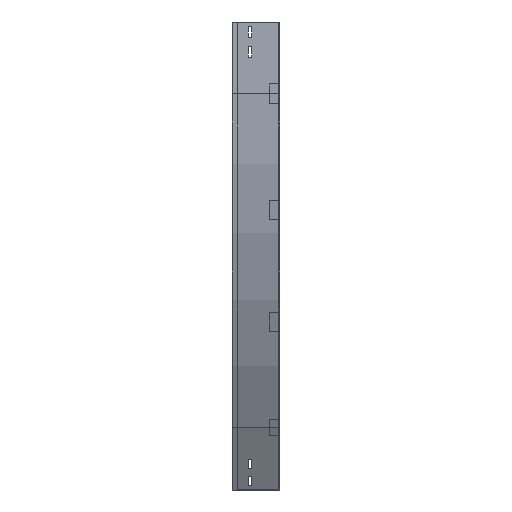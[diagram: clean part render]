
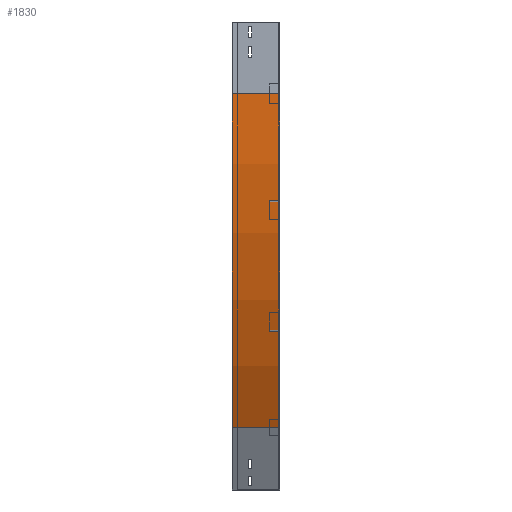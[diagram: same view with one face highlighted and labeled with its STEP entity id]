
A CAD part, left-side view. The second image highlights one B-rep face of the part: STEP entity #1830.
In plain terms, the highlighted cylindrical face has radius 1400 mm (diameter 2800 mm), a partial arc.
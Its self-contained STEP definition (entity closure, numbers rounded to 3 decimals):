
#34 = ORIENTED_EDGE ( 'NONE', *, *, #960, .T. ) ;
#155 = CARTESIAN_POINT ( 'NONE',  ( 1400., 100., -150. ) ) ;
#475 = LINE ( 'NONE', #803, #614 ) ;
#494 = DIRECTION ( 'NONE',  ( 0., -1., 0. ) ) ;
#614 = VECTOR ( 'NONE', #1393, 1000. ) ;
#655 = CYLINDRICAL_SURFACE ( 'NONE', #1392, 1400. ) ;
#803 = CARTESIAN_POINT ( 'NONE',  ( 0., 0., -150. ) ) ;
#844 = LINE ( 'NONE', #1091, #1557 ) ;
#913 = EDGE_CURVE ( 'NONE', #2637, #1344, #2130, .T. ) ;
#960 = EDGE_CURVE ( 'NONE', #3785, #1344, #844, .T. ) ;
#1091 = CARTESIAN_POINT ( 'NONE',  ( 187.564, 0., -850. ) ) ;
#1193 = FACE_OUTER_BOUND ( 'NONE', #1793, .T. ) ;
#1211 = CARTESIAN_POINT ( 'NONE',  ( 1400., 0., -150. ) ) ;
#1344 = VERTEX_POINT ( 'NONE', #2971 ) ;
#1392 = AXIS2_PLACEMENT_3D ( 'NONE', #1211, #1546, #2994 ) ;
#1393 = DIRECTION ( 'NONE',  ( 0., -1., 0. ) ) ;
#1546 = DIRECTION ( 'NONE',  ( 0., -1., 0. ) ) ;
#1557 = VECTOR ( 'NONE', #2096, 1000. ) ;
#1706 = VERTEX_POINT ( 'NONE', #2267 ) ;
#1741 = CARTESIAN_POINT ( 'NONE',  ( 0., 0., -150. ) ) ;
#1793 = EDGE_LOOP ( 'NONE', ( #3158, #2345, #3362, #34 ) ) ;
#1830 = ADVANCED_FACE ( 'NONE', ( #1193 ), #655, .T. ) ;
#2096 = DIRECTION ( 'NONE',  ( 0., -1., 0. ) ) ;
#2130 = CIRCLE ( 'NONE', #3137, 1400. ) ;
#2132 = AXIS2_PLACEMENT_3D ( 'NONE', #155, #3092, #3407 ) ;
#2267 = CARTESIAN_POINT ( 'NONE',  ( 0., 100., -150. ) ) ;
#2345 = ORIENTED_EDGE ( 'NONE', *, *, #3653, .F. ) ;
#2396 = EDGE_CURVE ( 'NONE', #1706, #3785, #2726, .T. ) ;
#2634 = CARTESIAN_POINT ( 'NONE',  ( 1400., 0., -150. ) ) ;
#2637 = VERTEX_POINT ( 'NONE', #1741 ) ;
#2726 = CIRCLE ( 'NONE', #2132, 1400. ) ;
#2971 = CARTESIAN_POINT ( 'NONE',  ( 187.564, 0., -850. ) ) ;
#2994 = DIRECTION ( 'NONE',  ( 0., 0., -1. ) ) ;
#3092 = DIRECTION ( 'NONE',  ( 0., -1., 0. ) ) ;
#3137 = AXIS2_PLACEMENT_3D ( 'NONE', #2634, #494, #3483 ) ;
#3158 = ORIENTED_EDGE ( 'NONE', *, *, #913, .F. ) ;
#3227 = CARTESIAN_POINT ( 'NONE',  ( 187.564, 100., -850. ) ) ;
#3362 = ORIENTED_EDGE ( 'NONE', *, *, #2396, .T. ) ;
#3407 = DIRECTION ( 'NONE',  ( -1., 0., 0. ) ) ;
#3483 = DIRECTION ( 'NONE',  ( -1., 0., 0. ) ) ;
#3653 = EDGE_CURVE ( 'NONE', #1706, #2637, #475, .T. ) ;
#3785 = VERTEX_POINT ( 'NONE', #3227 ) ;
